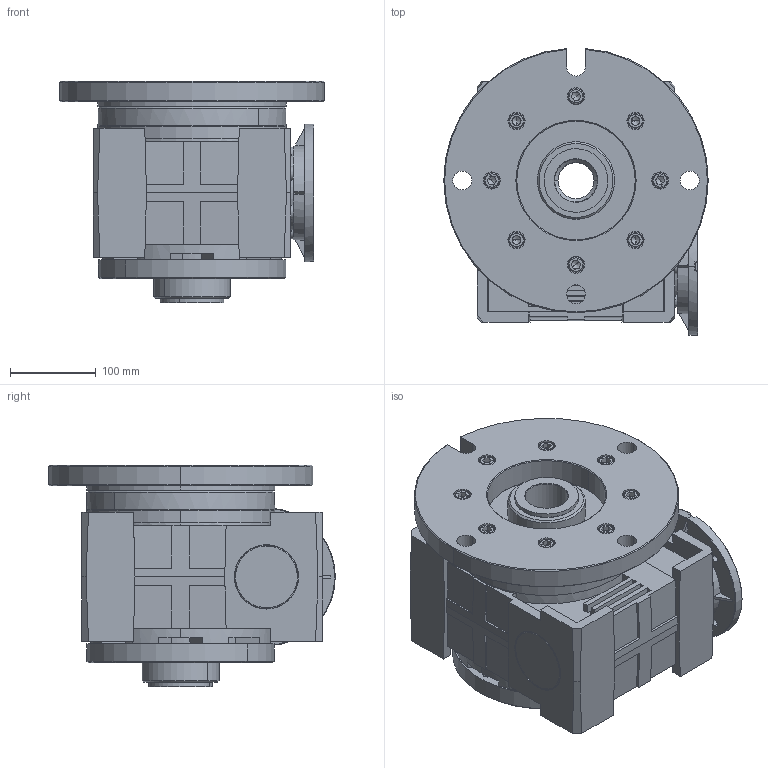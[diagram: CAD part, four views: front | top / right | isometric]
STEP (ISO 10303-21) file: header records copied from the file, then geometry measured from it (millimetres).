
FILE_DESCRIPTION (( 'STEP AP203' ), '1' );
FILE_NAME ('MRP-100_160-28_SP_K-2.STEP', '2024-04-04T12:40:39', ( '' ), ( '' ), 'SwSTEP 2.0', 'SolidWorks 2022', '' );
FILE_SCHEMA (( 'CONFIG_CONTROL_DESIGN' ));
Products named in the file (1): MRP-100_160-28_SP_K-2
Bounding box: 308 x 333.83 x 258 mm (x, y, z)
Volume: 11423115.1 mm3; surface area: 842867.9 mm2
Topology: 1 solids, 74 shells, 1889 faces, 4442 edges, 2733 vertices
Faces by surface type: plane 896, cone 409, cylinder 375, torus 149, bspline 60
Entity records: 58104 total; most frequent: CARTESIAN_POINT 14650, DIRECTION 9370, ORIENTED_EDGE 8728, EDGE_CURVE 4364, AXIS2_PLACEMENT_3D 3636, VERTEX_POINT 2733, VECTOR 2098, LINE 2098
